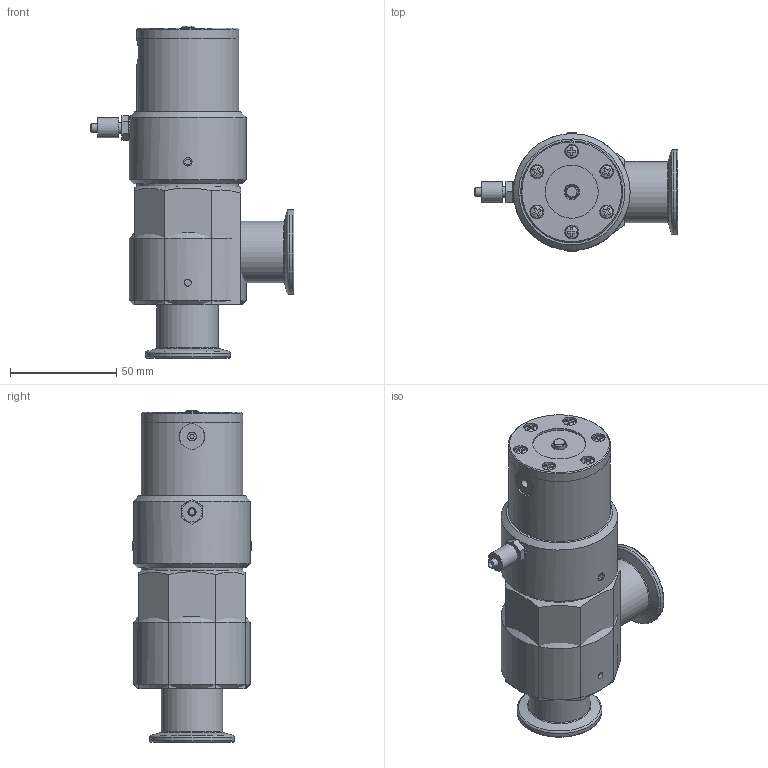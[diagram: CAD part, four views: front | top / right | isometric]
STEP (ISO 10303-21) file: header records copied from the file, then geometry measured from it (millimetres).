
FILE_DESCRIPTION( ( 'Unknown' ), '1' );
FILE_NAME( 'X:/Daten ( aktueller Bestand )/Projekte und Zeichnungen/Solid Edge/21 Eck + Durchgangsventile KF ISO-K, el.pneumatisch/Alu/Eckventil/NW25/Internet/310412.stp', 'Unknown', ( 'Unknown' ), ( 'Unknown' ), 'XStep 1.0', 'Unknown', ' ' );
FILE_SCHEMA( ( 'automotive_design' ) );
Length unit declared in the file: millimetre
Products named in the file (10): Assem1; Gehaese Eck.Alu.NW25; 3104-1; 3102-2; 3102-3; 3102-4; 3102-5; Anschluss Festo; Schraube 3x8; M4x4
Bounding box: 96 x 56 x 156.5 mm (x, y, z)
Volume: 584068 mm3; surface area: 120139.9 mm2
Topology: 24 solids, 24 shells, 426 faces, 957 edges, 635 vertices
Faces by surface type: plane 236, cylinder 121, cone 50, torus 12, sphere 7
Full cylindrical faces by diameter (mm): 2 x2, 2.459 x12, 2.8 x2, 3 x7, 3.242 x4, 3.3 x12, 4 x5, 4.134 x4, 5 x4, 5.793 x7, 6 x4, 6.3 x2, 6.5 x12, 9.518 x2, 10 x2, 10.3 x2, 12 x2, 12.5 x2, 12.812 x2, 20 x2, 25 x2, 26 x2, 26.2 x2, 27.2 x2, 29 x4, 33.739 x2, 37.97 x2, 40 x4, 47.5 x2, 48 x4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
Entity records: 4595 total; most frequent: CARTESIAN_POINT 1164, DIRECTION 692, ORIENTED_EDGE 450, AXIS2_PLACEMENT_3D 308, EDGE_LOOP 295, EDGE_CURVE 225, FACE_OUTER_BOUND 222, VERTEX_POINT 198
